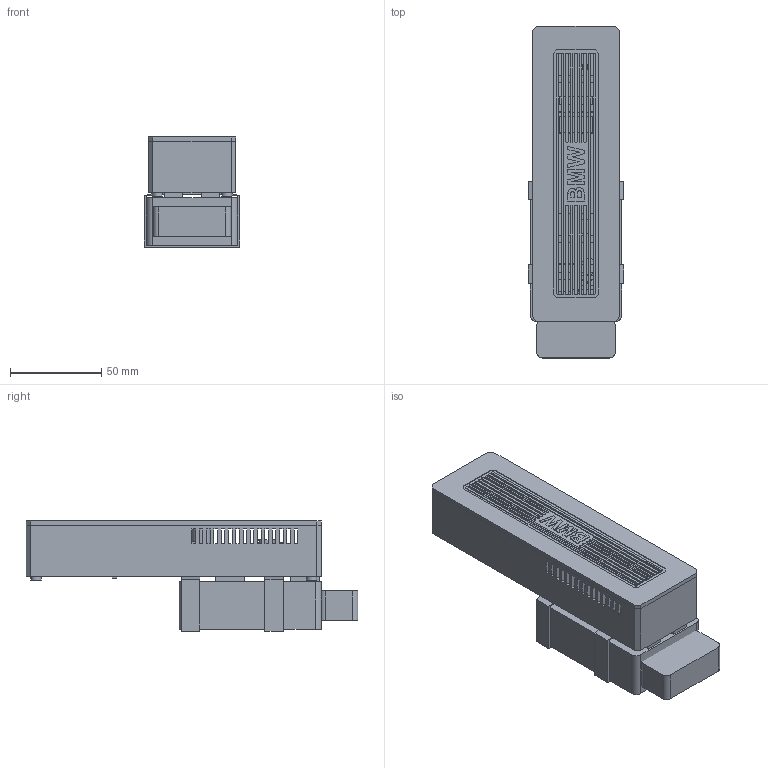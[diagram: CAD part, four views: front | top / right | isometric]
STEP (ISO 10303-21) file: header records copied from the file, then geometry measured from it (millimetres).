
FILE_DESCRIPTION(('Open CASCADE Model'),'2;1');
FILE_NAME('ELM backpack E - INLINE ADAPTER - FIT CHECK REQUIRED', '2026-09-07T23:15:37',('Author'),('Open CASCADE'), 'Open CASCADE STEP processor 7.9','build123d','Unknown');
FILE_SCHEMA(('AUTOMOTIVE_DESIGN { 1 0 10303 214 1 1 1 1 }'));
Length unit declared in the file: millimetre
Products named in the file (119): ELM backpack E - INLINE ADAPTER - FIT CHECK REQUIRED; base; lid; buck keeper 4; REF optional silver rib paint; REF optional silver lettering paint; REF buck PCB; REF buck input DC jack; REF buck input terminal; REF terminal screw; REF buck output terminal; REF buck input capacitor; REF buck output capacitor; REF buck inductor; REF buck controller; REF buck USB C; REF ESP PCB; REF ESP antenna - no tie here; REF ESP RF shield - tie here; REF ESP USB C; REF ESP solder pad; REF direct solder joint; REF ESP button; REF ESP RGB LED; REF insulating support pad; REF keeper toe pad - compressed; REF mounting silicone pad; REF ELM shell - UNMEASURED; REF OBD plug - UNMEASURED; REF M3 x 25 underside lid screw; REF M3 x 6 screw; REF reusable 10 mm strap; REF ESP retaining nylon tie
Assembly tree (121 placements, depth 2):
  ELM backpack E - INLINE ADAPTER - FIT CHECK REQUIRED
    base
    lid
    buck keeper 4  x4
    REF optional silver rib paint
    REF optional silver rib paint
    REF optional silver rib paint
    REF optional silver rib paint
    REF optional silver rib paint
    REF optional silver rib paint
    REF optional silver rib paint
    REF optional silver rib paint
    REF optional silver rib paint
    REF optional silver rib paint
    REF optional silver rib paint
    REF optional silver rib paint
    REF optional silver rib paint
    REF optional silver rib paint
    REF optional silver lettering paint
    REF buck PCB
    REF buck input DC jack
    REF buck input terminal
    REF terminal screw
    REF terminal screw
    REF buck output terminal
    REF terminal screw
    REF terminal screw
    REF buck input capacitor
    REF buck output capacitor
    REF buck inductor
    REF buck controller
    REF buck USB C
    REF ESP PCB
    REF ESP antenna - no tie here
    REF ESP RF shield - tie here
    REF ESP USB C
    REF ESP USB C
    REF ESP solder pad
    REF ESP solder pad
    REF ESP solder pad
    REF ESP solder pad
    REF ESP solder pad
    REF ESP solder pad
    REF ESP solder pad
    REF ESP solder pad
    REF ESP solder pad
    REF ESP solder pad
    REF ESP solder pad
    REF ESP solder pad
    REF ESP solder pad
    REF ESP solder pad
    REF ESP solder pad
    REF ESP solder pad
    REF ESP solder pad
    REF ESP solder pad
    REF ESP solder pad
    REF ESP solder pad
    REF ESP solder pad
    REF ESP solder pad
    REF direct solder joint
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Bounding box: 52.4 x 182 x 60.42 mm (x, y, z)
Volume: 197970.6 mm3; surface area: 108219.6 mm2
Topology: 123 solids, 123 shells, 1653 faces, 4210 edges, 2804 vertices
Faces by surface type: plane 1435, cylinder 170, extrusion 48
Full cylindrical faces by diameter (mm): 1.4 x44, 1.5 x8, 2.6 x8, 3 x8, 3.4 x12, 5.6 x12, 6.4 x4, 9 x1, 10 x1
Entity records: 105866 total; most frequent: CARTESIAN_POINT 21321, DIRECTION 13571, VECTOR 9211, LINE 9163, ORIENTED_EDGE 8330, PCURVE 8330, DEFINITIONAL_REPRESENTATION 8330, EDGE_CURVE 4165
